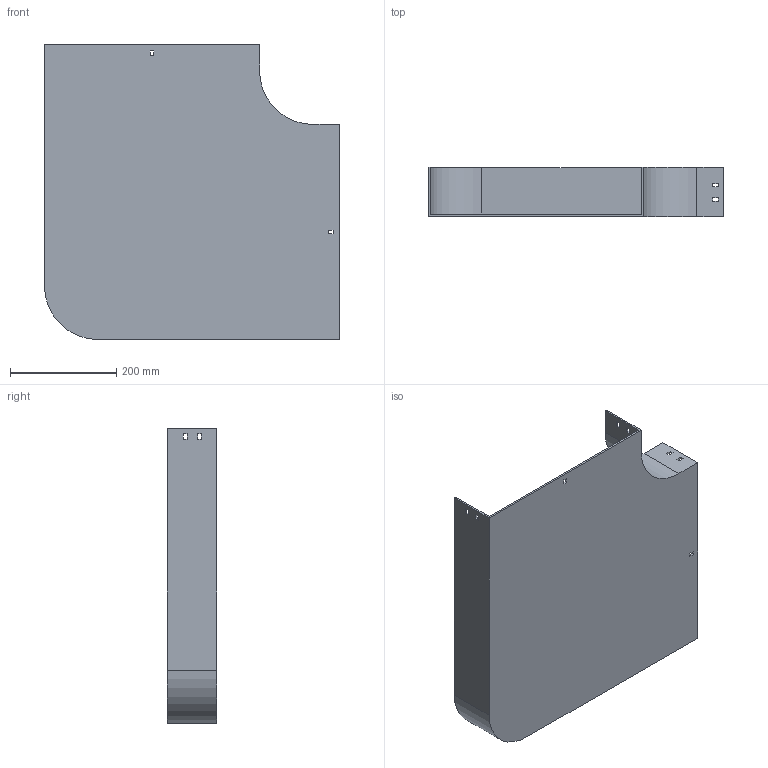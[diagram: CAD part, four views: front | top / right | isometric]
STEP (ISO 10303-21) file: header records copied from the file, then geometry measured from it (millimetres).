
FILE_DESCRIPTION (( 'STEP AP214' ), '1' );
FILE_NAME ('10B1I400.step', '2025-02-21T09:42:13', ( '' ), ( '' ), 'SwSTEP 2.0', 'SolidWorks 2023', '' );
FILE_SCHEMA (( 'AUTOMOTIVE_DESIGN' ));
Length unit declared in the file: millimetre
Products named in the file (1): 10B1I400
Bounding box: 554 x 92.5 x 554 mm (x, y, z)
Volume: 1404939.1 mm3; surface area: 812692.9 mm2
Topology: 1 solids, 1 shells, 58 faces, 168 edges, 112 vertices
Faces by surface type: plane 54, cylinder 4
Entity records: 1943 total; most frequent: CARTESIAN_POINT 339, ORIENTED_EDGE 336, DIRECTION 294, EDGE_CURVE 168, VECTOR 160, LINE 160, VERTEX_POINT 112, EDGE_LOOP 78
